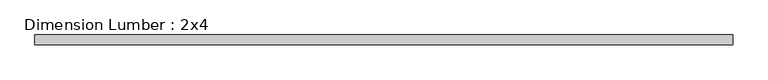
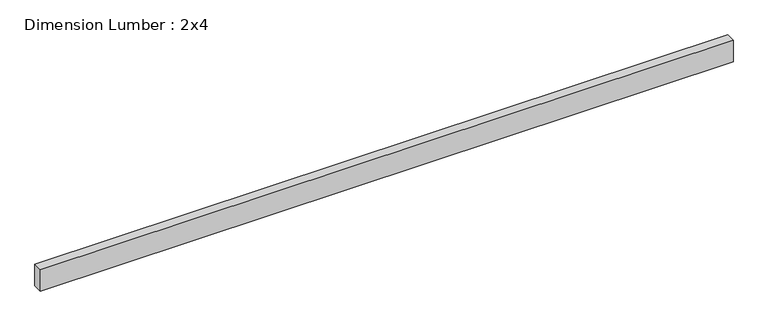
"""IFC4 building model written with IfcOpenShell, lengths in millimetres: beam geometry, Dimension Lumber : 2x4."""

from ifc_helpers import new_model, si_unit, frame, origin, place, context, project, spatial, polyline, outline, extrude, source, transform, mapped, element, save


def dimension_lumber_2x4_820e5a40(model_context):
    return source(origin(), model_context, "Body", "SweptSolid", [
        extrude(outline(polyline([(1371.6, 19.05), (1371.6, -19.05), (-1371.6, -19.05), (-1371.6, 19.05), (1371.6, 19.05)])), frame((0.0, 0.0, -44.45), z_axis=(0.0, 0.0, 1.0), x_axis=(1.0, 0.0, 0.0)), (0.0, 0.0, 1.0), 88.9),
    ])


if __name__ == "__main__":
    model = new_model("IFC4")
    model_context = context("Model", 3, world=origin())
    ifc_project = project(units=[si_unit("LENGTHUNIT", "METRE", prefix="MILLI")], contexts=[model_context])
    site = spatial("IfcSite", under=ifc_project)
    building = spatial("IfcBuilding", under=site)
    placement = place(None, origin())
    dimension_lumber_2x4_shape = dimension_lumber_2x4_820e5a40(model_context)
    element("IfcBeam", 1, ObjectType="Dimension Lumber : 2x4", at=placement, inside=building, context=model_context, shape_type="MappedRepresentation", body=[
        mapped(dimension_lumber_2x4_shape, transform((0.0, 0.0, 0.0), x_axis=(1.0, 0.0, 0.0), y_axis=(0.0, 1.0, 0.0), z_axis=(0.0, 0.0, 1.0))),
    ])
    save(model, "model.ifc")
